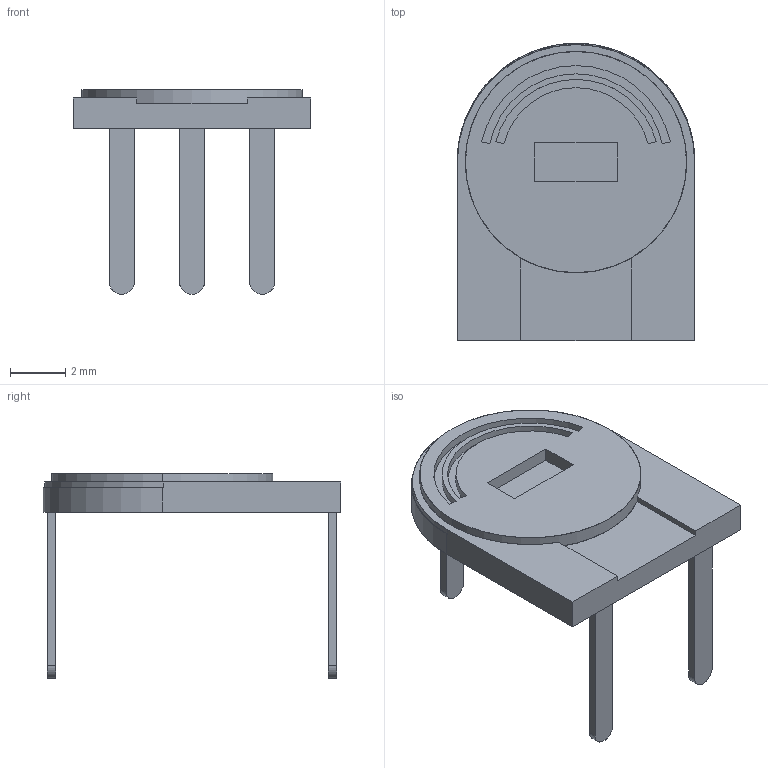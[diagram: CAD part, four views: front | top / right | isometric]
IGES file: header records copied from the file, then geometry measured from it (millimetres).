
Start section: SolidWorks IGES file using analytic representation for surfaces
Global section: file name: C:\Users\AndreBernot\Downloads\K-RACER-L_3D_SW\K-RACER-L_3D_SW\IGS\AJUSTABLE H.IGS; native system: SolidWorks 2015; preprocessor: SolidWorks 2015; author: AndreBernot; date: 170922.150740; units: millimetre
Bounding box: 8.6 x 10.76 x 7.4 mm (x, y, z)
Surface area: 273.5 mm2 (no closed solid volume)
Topology: 0 solids, 0 shells, 47 faces, 504 edges, 504 vertices
Faces by surface type: bspline 33, revolution 14
